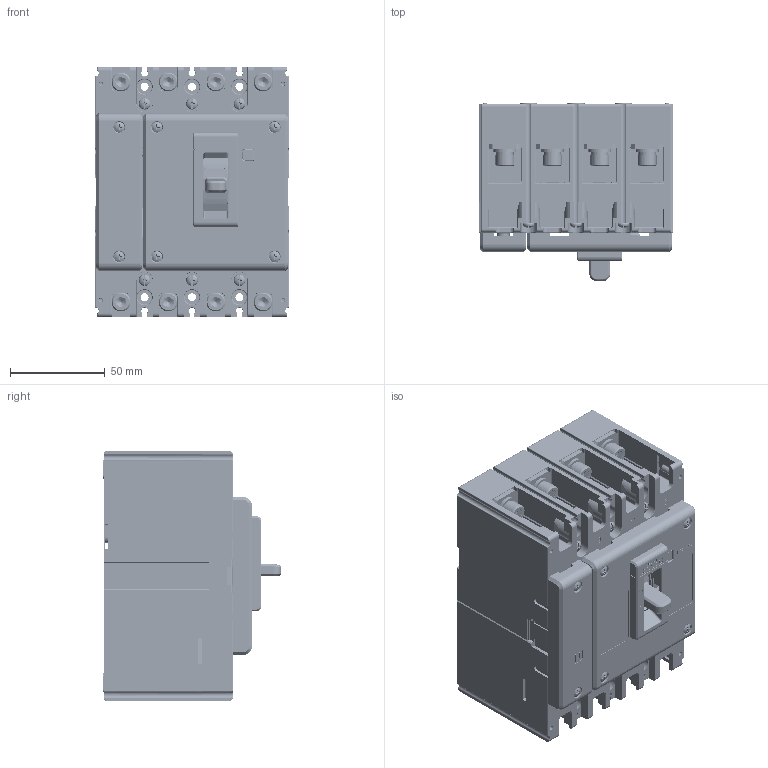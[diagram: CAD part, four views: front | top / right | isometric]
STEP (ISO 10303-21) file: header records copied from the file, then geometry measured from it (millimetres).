
FILE_DESCRIPTION((''),'2;1');
FILE_NAME('2253055500_ASM_1_ASM','2025-04-28T',('Administrator'),(''),'PRO/ENGINEER BY PARAMETRIC TECHNOLOGY CORPORATION, 2015440','PRO/ENGINEER BY PARAMETRIC TECHNOLOGY CORPORATION, 2015440','');
FILE_SCHEMA(('CONFIG_CONTROL_DESIGN'));
Products named in the file (59): JZ_5024049400_1; 5024049400_ASM_1_ASM; 5551123800_ASM_1_ASM; 8585079800_1; MANIFOLD_SOLID_BREP_93741; MANIFOLD_SOLID_BREP_93891; 8505032700_1_ASM; 5551123900_ASM_1_ASM; 5551124000_ASM_1_ASM; 5551124800_ASM_1_ASM; 8742136400_1; 8750042700_1; 7010100311L_GB_T823_M3X18_1; 7090300017_GB_T9074_26_3_1; GB_T97_4_3_1; 5850015300_ASM_1_ASM; 8253057100_1; 8865077900_AF0_1; 8865078000_AF0_1; 5253022600_ASM_1_ASM; 8742102100_1; 5612034900_ASM_1_ASM; 7010100303L_GB_T823_M3X6_1; 7090300201_GB_T93_3_1; 8585079700_1; 5551123400_ASM_1_ASM; 5551123500_ASM_1_ASM; 5551124200_ASM_1_ASM; MANIFOLD_SOLID_BREP_484102; MANIFOLD_SOLID_BREP_484252; 85050240P06_1_ASM; 8585079900_1; 5551124100_ASM_1_ASM; 5551125200_ASM_1_ASM; 5295015600_ASM_1_ASM; 5850006100_ASM_1_ASM; 8315112000_1; MANIFOLD_SOLID_BREP_356836; MANIFOLD_SOLID_BREP_357174; MANIFOLD_SOLID_BREP_357512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
Assembly tree (113 placements, depth 7):
  2253055500_ASM_1_ASM
    5024049400_ASM_1_ASM
      JZ_5024049400_1
    5551124800_ASM_1_ASM  x4
      5551124000_ASM_1_ASM
        5551123900_ASM_1_ASM
          5551123800_ASM_1_ASM
          8585079800_1
          8505032700_1_ASM  x2
            MANIFOLD_SOLID_BREP_93741
            MANIFOLD_SOLID_BREP_93891
    8742136400_1  x4
    8750042700_1
    5850015300_ASM_1_ASM  x4
      7010100311L_GB_T823_M3X18_1
      7090300017_GB_T9074_26_3_1
      GB_T97_4_3_1
    5253022600_ASM_1_ASM
      8253057100_1
      8865077900_AF0_1
      8865078000_AF0_1
    8742102100_1
    5612034900_ASM_1_ASM  x3
    5850006100_ASM_1_ASM
      7010100303L_GB_T823_M3X6_1
      7090300201_GB_T93_3_1
      GB_T97_4_3_1
      5295015600_ASM_1_ASM
        5551125200_ASM_1_ASM
          5551123500_ASM_1_ASM  x3
            5551123400_ASM_1_ASM
              8585079700_1
          5551124100_ASM_1_ASM
            5551124200_ASM_1_ASM
            85050240P06_1_ASM
              MANIFOLD_SOLID_BREP_484102
              MANIFOLD_SOLID_BREP_484252
            8585079900_1
    5315063800_ASM_1_ASM
      8315112000_1
      8742136300_1_ASM  x4
        MANIFOLD_SOLID_BREP_356836
        MANIFOLD_SOLID_BREP_357174
        MANIFOLD_SOLID_BREP_357512
    8742136800_1  x6
    5315064000_ASM_1_ASM
      8315111800_1
      8253076700_1
      8282071100_1
    8315096800_1
    7020100411_GB13806_2_ST2_9X8_A_  x6
    8906008200_1  x6
    7080100020_GB_T6170_M6_1  x8
    5510029000_ASM_1_ASM
      8585079800_1
      8505032700_1_ASM  x2
        MANIFOLD_SOLID_BREP_93741
        MANIFOLD_SOLID_BREP_93891
      8585079900_1
    8742102000_1  x3
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Bounding box: 102 x 93.99 x 132 mm (x, y, z)
Volume: 356692.7 mm3; surface area: 304050 mm2
Topology: 130 solids, 178 shells, 10669 faces, 28411 edges, 17803 vertices
Faces by surface type: plane 4845, cylinder 3522, torus 668, cone 547, extrusion 411, sphere 405, bspline 259, revolution 12
Entity records: 295728 total; most frequent: CARTESIAN_POINT 79651, ORIENTED_EDGE 45608, DIRECTION 44611, EDGE_CURVE 22827, AXIS2_PLACEMENT_3D 15431, VERTEX_POINT 14542, VECTOR 13747, LINE 13356
